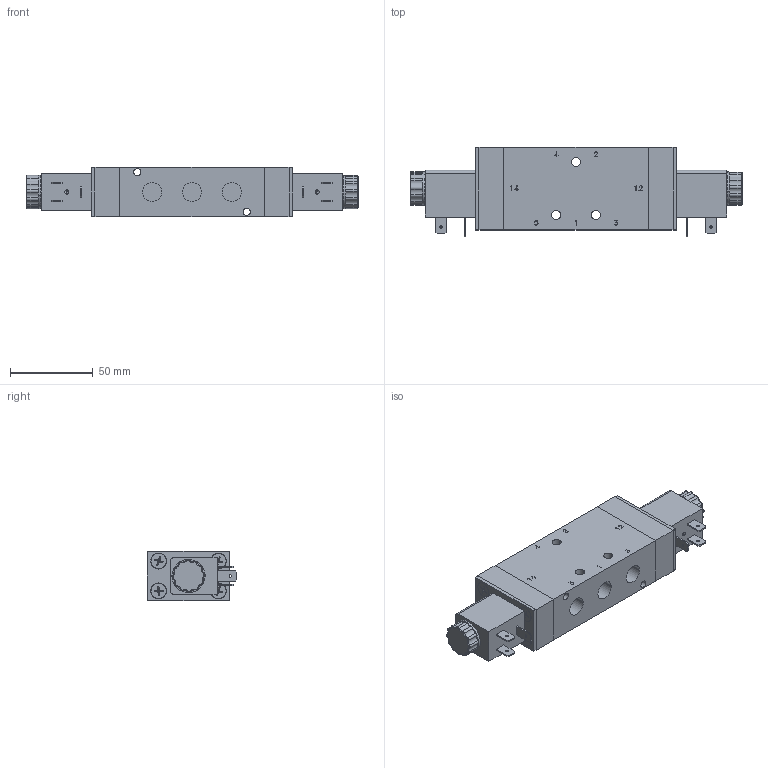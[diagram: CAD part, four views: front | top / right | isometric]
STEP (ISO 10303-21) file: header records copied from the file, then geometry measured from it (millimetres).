
FILE_DESCRIPTION (( 'STEP AP214' ), '1' );
FILE_NAME ('ICK-10-530-HN-F42_Airtec.step', '2019-01-08T09:09:04', ( '' ), ( '' ), 'SwSTEP 2.0', 'SolidWorks 2010', '' );
FILE_SCHEMA (( 'AUTOMOTIVE_DESIGN' ));
Length unit declared in the file: millimetre
Products named in the file (3): Volumenkörper4; Volumenkörper1; ICK-10-530-HN-F42_Airtec
Assembly tree (3 placements, depth 2):
  ICK-10-530-HN-F42_Airtec
    Volumenkörper4
    Volumenkörper1  x2
Bounding box: 200.2 x 54.2 x 30 mm (x, y, z)
Volume: 213175.7 mm3; surface area: 44052.4 mm2
Topology: 3 solids, 3 shells, 1163 faces, 3132 edges, 2024 vertices
Faces by surface type: plane 677, cylinder 206, cone 130, torus 118, bspline 32
Entity records: 46454 total; most frequent: CARTESIAN_POINT 10800, ORIENTED_EDGE 5992, DIRECTION 5578, EDGE_CURVE 2996, VERTEX_POINT 1947, AXIS2_PLACEMENT_3D 1871, VECTOR 1836, LINE 1836
